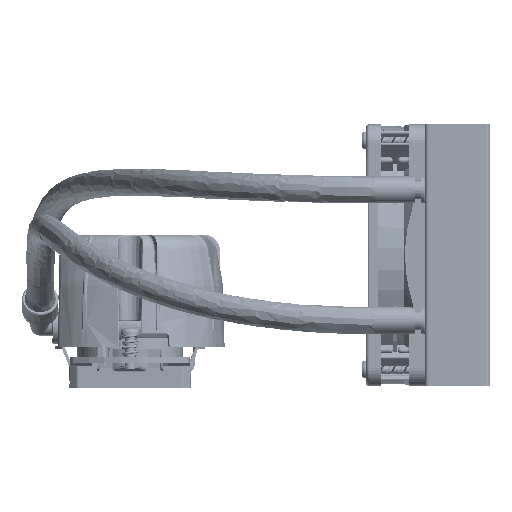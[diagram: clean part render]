
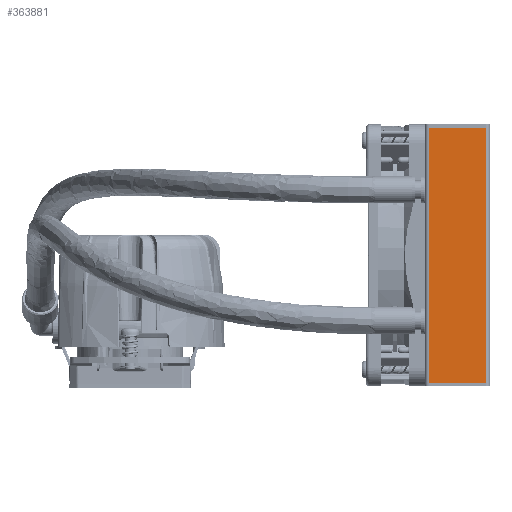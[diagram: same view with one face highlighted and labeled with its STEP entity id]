
A CAD part, left-side view. The second image highlights one B-rep face of the part: STEP entity #363881.
In plain terms, the highlighted planar face has unit normal (-1, 0, 0).
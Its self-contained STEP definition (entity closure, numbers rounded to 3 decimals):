
#24638=PLANE('',#393743);
#51509=LINE('',#584745,#84638);
#51510=LINE('',#584747,#84639);
#51511=LINE('',#584749,#84640);
#51512=LINE('',#584751,#84641);
#84638=VECTOR('',#472257,1000.);
#84639=VECTOR('',#472260,1000.);
#84640=VECTOR('',#472261,1000.);
#84641=VECTOR('',#472262,1000.);
#169122=ORIENTED_EDGE('',*,*,#232915,.T.);
#169123=ORIENTED_EDGE('',*,*,#232914,.F.);
#169124=ORIENTED_EDGE('',*,*,#232916,.F.);
#169125=ORIENTED_EDGE('',*,*,#232917,.T.);
#232914=EDGE_CURVE('',#270774,#270773,#51509,.T.);
#232915=EDGE_CURVE('',#270775,#270773,#51510,.T.);
#232916=EDGE_CURVE('',#270776,#270774,#51511,.T.);
#232917=EDGE_CURVE('',#270776,#270775,#51512,.T.);
#270773=VERTEX_POINT('',#584742);
#270774=VERTEX_POINT('',#584744);
#270775=VERTEX_POINT('',#584748);
#270776=VERTEX_POINT('',#584750);
#293071=EDGE_LOOP('',(#169122,#169123,#169124,#169125));
#311439=FACE_BOUND('',#293071,.T.);
#363881=ADVANCED_FACE('',(#311439),#24638,.F.);
#393743=AXIS2_PLACEMENT_3D('',#584746,#472258,#472259);
#472257=DIRECTION('',(0.,0.,-1.));
#472258=DIRECTION('',(1.,0.,0.));
#472259=DIRECTION('',(0.,0.,-1.));
#472260=DIRECTION('',(0.,-1.,0.));
#472261=DIRECTION('',(0.,-1.,0.));
#472262=DIRECTION('',(0.,0.,-1.));
#584742=CARTESIAN_POINT('',(-144.,-13.,-58.5));
#584744=CARTESIAN_POINT('',(-144.,-13.,58.5));
#584745=CARTESIAN_POINT('',(-144.,-13.,58.5));
#584746=CARTESIAN_POINT('',(-144.,-13.,58.5));
#584747=CARTESIAN_POINT('',(-144.,-13.,-58.5));
#584748=CARTESIAN_POINT('',(-144.,13.,-58.5));
#584749=CARTESIAN_POINT('',(-144.,-13.,58.5));
#584750=CARTESIAN_POINT('',(-144.,13.,58.5));
#584751=CARTESIAN_POINT('',(-144.,13.,58.5));
